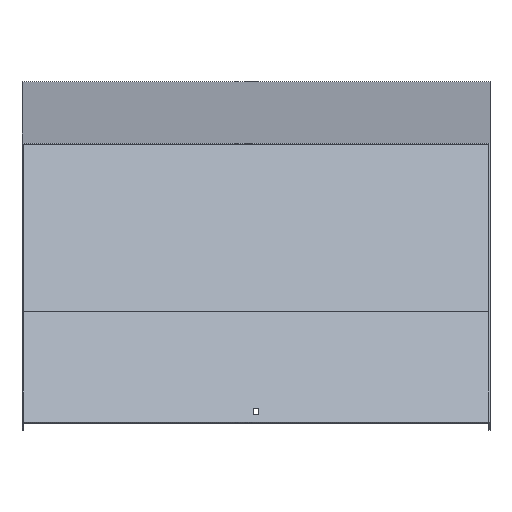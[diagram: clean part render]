
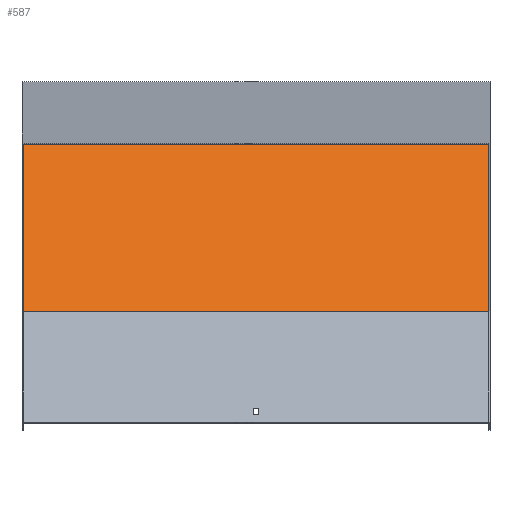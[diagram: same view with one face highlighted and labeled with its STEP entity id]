
A CAD part, top view. The second image highlights one B-rep face of the part: STEP entity #587.
In plain terms, the highlighted planar face has unit normal (0, 0.707, 0.707).
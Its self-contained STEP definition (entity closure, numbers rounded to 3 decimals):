
#54 = LINE ( 'NONE', #956, #372 ) ;
#97 = LINE ( 'NONE', #185, #713 ) ;
#101 = CARTESIAN_POINT ( 'NONE',  ( -301.5, -63.245, 465.954 ) ) ;
#149 = DIRECTION ( 'NONE',  ( 0., -0.707, 0.707 ) ) ;
#175 = DIRECTION ( 'NONE',  ( 0., -0.707, 0.707 ) ) ;
#185 = CARTESIAN_POINT ( 'NONE',  ( 301.5, -59.455, 462.165 ) ) ;
#192 = EDGE_CURVE ( 'NONE', #809, #633, #518, .T. ) ;
#209 = ORIENTED_EDGE ( 'NONE', *, *, #192, .F. ) ;
#225 = DIRECTION ( 'NONE',  ( 0., -0.707, -0.707 ) ) ;
#264 = DIRECTION ( 'NONE',  ( -1., 0., 0. ) ) ;
#288 = VECTOR ( 'NONE', #175, 1000. ) ;
#292 = FACE_OUTER_BOUND ( 'NONE', #820, .T. ) ;
#372 = VECTOR ( 'NONE', #264, 1000. ) ;
#380 = CARTESIAN_POINT ( 'NONE',  ( 301.5, -59.455, 462.165 ) ) ;
#473 = DIRECTION ( 'NONE',  ( -1., 0., 0. ) ) ;
#481 = ORIENTED_EDGE ( 'NONE', *, *, #955, .T. ) ;
#489 = VERTEX_POINT ( 'NONE', #762 ) ;
#494 = VERTEX_POINT ( 'NONE', #528 ) ;
#518 = LINE ( 'NONE', #596, #746 ) ;
#528 = CARTESIAN_POINT ( 'NONE',  ( -301.5, -59.455, 462.165 ) ) ;
#559 = CARTESIAN_POINT ( 'NONE',  ( 301.5, -276.532, 679.241 ) ) ;
#587 = ADVANCED_FACE ( 'NONE', ( #292 ), #668, .F. ) ;
#596 = CARTESIAN_POINT ( 'NONE',  ( 301.5, -63.245, 465.954 ) ) ;
#620 = ORIENTED_EDGE ( 'NONE', *, *, #966, .T. ) ;
#633 = VERTEX_POINT ( 'NONE', #559 ) ;
#639 = ORIENTED_EDGE ( 'NONE', *, *, #719, .F. ) ;
#655 = AXIS2_PLACEMENT_3D ( 'NONE', #897, #225, #661 ) ;
#661 = DIRECTION ( 'NONE',  ( 0., 0.707, -0.707 ) ) ;
#668 = PLANE ( 'NONE',  #655 ) ;
#713 = VECTOR ( 'NONE', #473, 1000. ) ;
#719 = EDGE_CURVE ( 'NONE', #633, #489, #54, .T. ) ;
#746 = VECTOR ( 'NONE', #149, 1000. ) ;
#762 = CARTESIAN_POINT ( 'NONE',  ( -301.5, -276.532, 679.241 ) ) ;
#776 = LINE ( 'NONE', #101, #288 ) ;
#809 = VERTEX_POINT ( 'NONE', #380 ) ;
#820 = EDGE_LOOP ( 'NONE', ( #481, #639, #209, #620 ) ) ;
#897 = CARTESIAN_POINT ( 'NONE',  ( 301.5, -63.245, 465.954 ) ) ;
#955 = EDGE_CURVE ( 'NONE', #494, #489, #776, .T. ) ;
#956 = CARTESIAN_POINT ( 'NONE',  ( 301.5, -276.532, 679.241 ) ) ;
#966 = EDGE_CURVE ( 'NONE', #809, #494, #97, .T. ) ;
